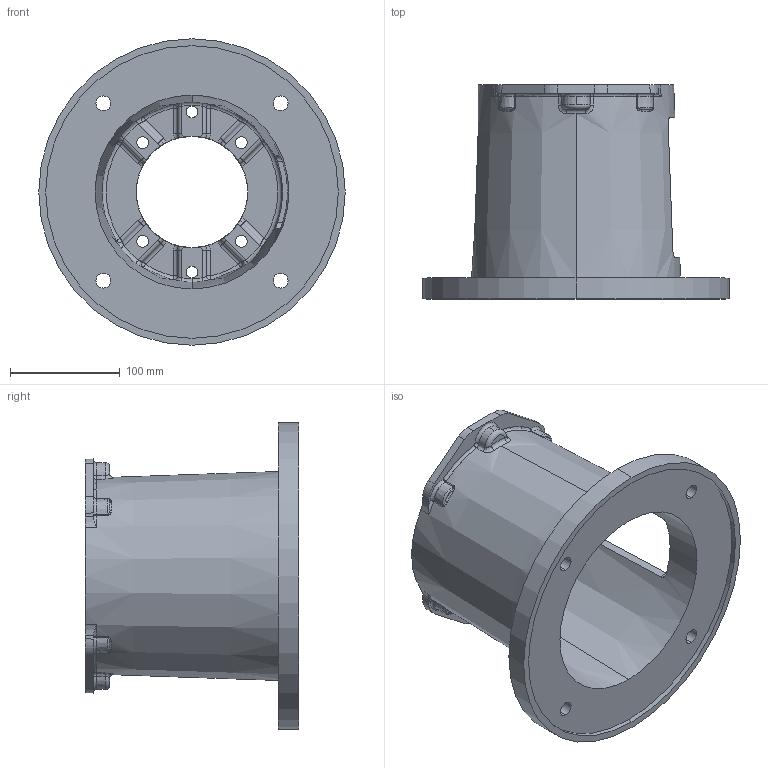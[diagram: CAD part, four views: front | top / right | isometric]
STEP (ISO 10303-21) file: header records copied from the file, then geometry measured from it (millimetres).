
FILE_DESCRIPTION (( 'STEP AP203' ), '1' );
FILE_NAME ('M284752B.STEP', '2007-12-21T21:01:42', ( 'Chris McCoy' ), ( 'Magnaloy Coupling Co' ), 'SwSTEP 2.0', 'SolidWorks 2007', '' );
FILE_SCHEMA (( 'CONFIG_CONTROL_DESIGN' ));
Length unit declared in the file: inch
Products named in the file (1): M284752B
Bounding box: 279.4 x 195.07 x 279.4 mm (x, y, z)
Volume: 1421004.2 mm3; surface area: 325599 mm2
Topology: 1 solids, 1 shells, 354 faces, 902 edges, 532 vertices
Faces by surface type: torus 106, cylinder 86, bspline 64, plane 50, sphere 24, cone 24
Entity records: 14529 total; most frequent: CARTESIAN_POINT 6389, ORIENTED_EDGE 1764, DIRECTION 1686, EDGE_CURVE 882, AXIS2_PLACEMENT_3D 763, VERTEX_POINT 532, CIRCLE 472, EDGE_LOOP 380
